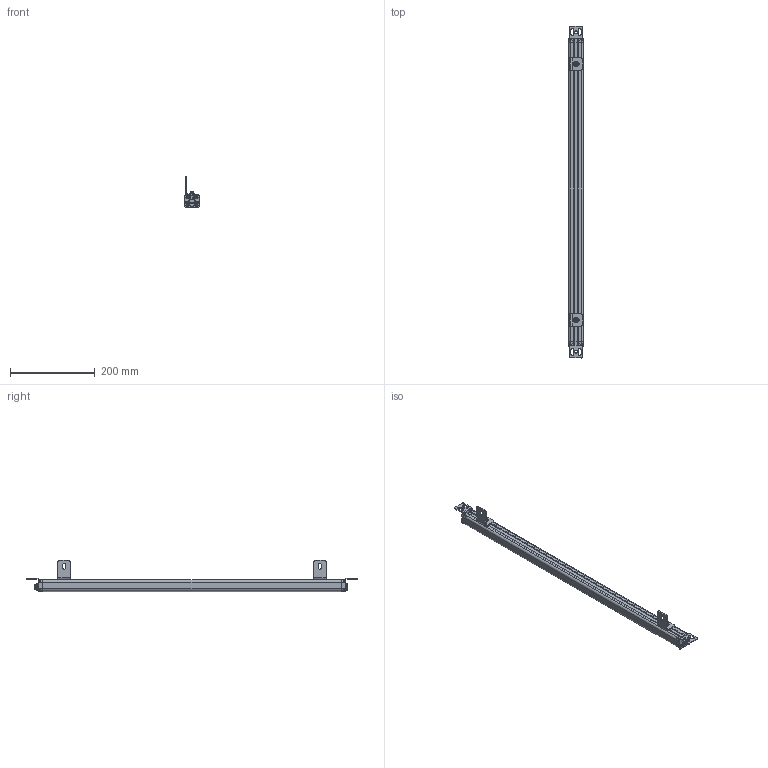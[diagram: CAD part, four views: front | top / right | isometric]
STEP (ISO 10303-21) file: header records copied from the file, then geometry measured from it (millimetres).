
FILE_DESCRIPTION((''),'2;1');
FILE_NAME('ELG-0440_ASM','2021-08-07T09:32:51',('18720616900'),(''),'CREO PARAMETRIC BY PTC INC, 2019010','CREO PARAMETRIC BY PTC INC, 2019010','');
FILE_SCHEMA(('CONFIG_CONTROL_DESIGN'));
Products named in the file (18): ELG--00; ELG--000; ELG000; M3--0001; 3000; 3--0001; ELG_30001_ASM; ST-3-12; L20001; M3-6; L10001; M6-1--00; M6-1-00; M6-8--0001; 00; L1--0001_ASM; ELG-0440_ASM
Assembly tree (34 placements, depth 3):
  ELG-0440_ASM
    ELG--00
    ELG--000
    ELG000
    ELG000
    M3--0001  x4
    ELG_30001_ASM
      3000
      3--0001  x3
    ST-3-12  x8
    L20001  x2
    M3-6  x4
    L1--0001_ASM  x2
      L10001
      M6-1--00
      M6-1-00
      M6-8--0001
      00
Bounding box: 35 x 785 x 73.4 mm (x, y, z)
Volume: 629703.3 mm3; surface area: 168507 mm2
Topology: 36 solids, 36 shells, 3404 faces, 9468 edges, 6167 vertices
Faces by surface type: cylinder 1928, plane 616, bspline 398, cone 353, torus 99, sphere 10
Entity records: 68753 total; most frequent: CARTESIAN_POINT 35026, ORIENTED_EDGE 7326, DIRECTION 6679, EDGE_CURVE 3663, AXIS2_PLACEMENT_3D 2530, VERTEX_POINT 2387, VECTOR 1619, LINE 1619
